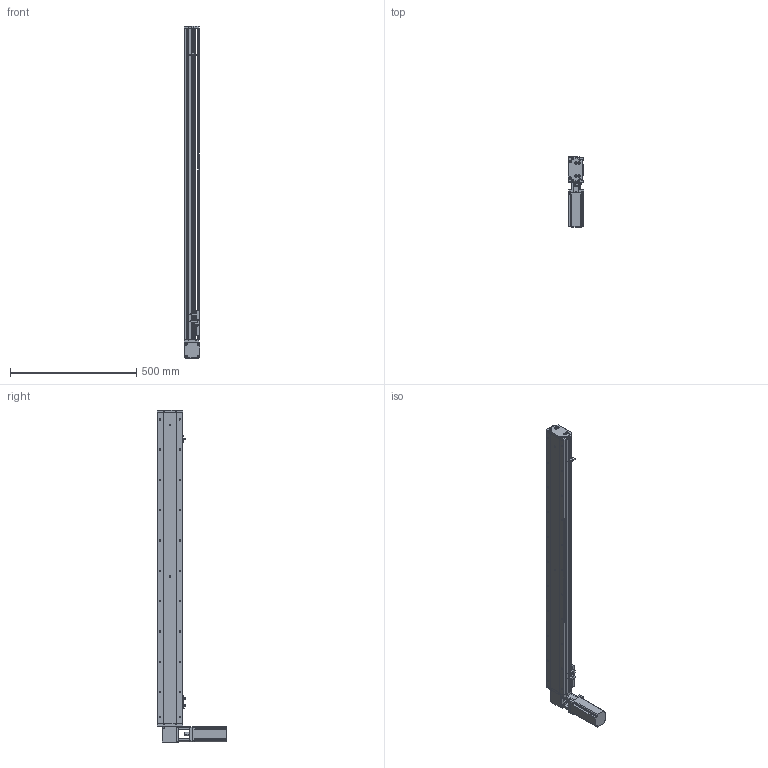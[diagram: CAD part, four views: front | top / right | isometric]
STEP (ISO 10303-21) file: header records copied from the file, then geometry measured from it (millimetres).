
FILE_DESCRIPTION (( 'STEP AP214' ), '1' );
FILE_NAME ('KSD100B-S1050-MLT-CM.STEP', '2019-11-11T05:21:07', ( '微软用户' ), ( '微软中国' ), 'SwSTEP 2.0', 'SolidWorks 2014', '' );
FILE_SCHEMA (( 'AUTOMOTIVE_DESIGN' ));
Length unit declared in the file: millimetre
Products named in the file (12): 100宽安装板同步带带电机座400W,86; 100遵鎮湛假蚾啣1 ; 100宽防尘板1050行程-同步带; U倰嫖萇EEㄜSX672; 覜茼え100遵圉猾敕; 台达ECMA－C20604AS伺服电机; 100宽马达安装板同步带右; 100宽同步带安装板半封闭; 100宽马达安装板同步带; 100遵傷啣肮祭湍; 100宽底板半封闭同步带1050行程; KSD100B-S1050-MLT-CM
Assembly tree (13 placements, depth 2):
  KSD100B-S1050-MLT-CM
    100宽底板半封闭同步带1050行程
    100遵傷啣肮祭湍
    100宽马达安装板同步带
    100宽同步带安装板半封闭
    100宽马达安装板同步带右
    台达ECMA－C20604AS伺服电机
    覜茼え100遵圉猾敕
    U倰嫖萇EEㄜSX672  x3
    100宽防尘板1050行程-同步带
    100遵鎮湛假蚾啣1 
    100宽安装板同步带带电机座400W,86
Bounding box: 61 x 275 x 1315 mm (x, y, z)
Volume: 2935032.6 mm3; surface area: 959141.1 mm2
Topology: 14 solids, 14 shells, 1482 faces, 4171 edges, 2647 vertices
Faces by surface type: cylinder 760, plane 579, cone 143
Entity records: 52263 total; most frequent: CARTESIAN_POINT 10662, DIRECTION 7255, ORIENTED_EDGE 6962, EDGE_CURVE 3481, AXIS2_PLACEMENT_3D 2674, VERTEX_POINT 2271, VECTOR 1907, LINE 1907
